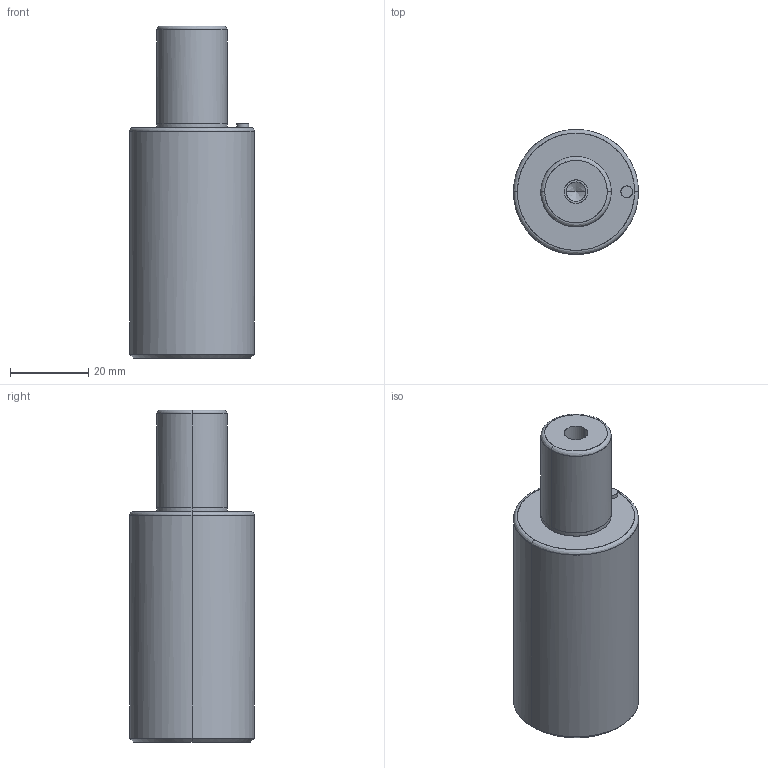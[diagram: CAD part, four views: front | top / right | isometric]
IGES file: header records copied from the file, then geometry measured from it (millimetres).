
Global section: file name: E:\UnigraphicsGraphicData\MISUMI_PRESS-PARTS\IGES\3d_gsc32-25_03816_r00.igs; native system: NX V5.0; preprocessor: UGS NX IGES V5.0; author: MISUMI; date: 20110105.160745; units: millimetre
Bounding box: 32 x 31.95 x 85 mm (x, y, z)
Surface area: 9292.9 mm2 (no closed solid volume)
Topology: 0 solids, 0 shells, 32 faces, 216 edges, 212 vertices
Faces by surface type: bspline 32
